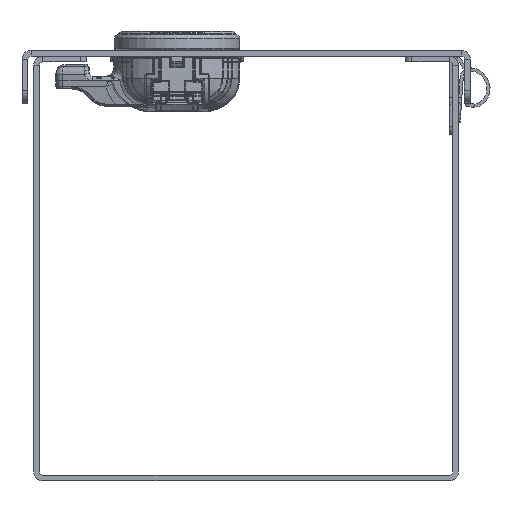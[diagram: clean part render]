
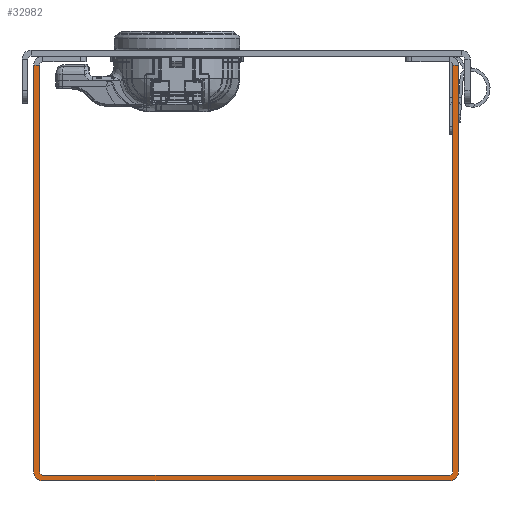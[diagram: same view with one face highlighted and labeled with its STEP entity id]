
A CAD part, front view. The second image highlights one B-rep face of the part: STEP entity #32982.
In plain terms, the highlighted planar face has unit normal (0, -1, 0).
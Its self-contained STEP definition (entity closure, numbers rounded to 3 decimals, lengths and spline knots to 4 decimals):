
#2635=FACE_OUTER_BOUND('',#4661,.T.);
#4661=EDGE_LOOP('',(#23422,#23423,#23424,#23425,#23426,#23427,#23428,#23429,
#23430,#23431,#23432,#23433));
#6642=LINE('',#47168,#9529);
#7129=LINE('',#48593,#10016);
#7136=LINE('',#48615,#10023);
#7143=LINE('',#48639,#10030);
#7145=LINE('',#48645,#10032);
#7146=LINE('',#48648,#10033);
#7147=LINE('',#48650,#10034);
#7148=LINE('',#48654,#10035);
#9529=VECTOR('',#38213,0.3937);
#10016=VECTOR('',#39638,0.3937);
#10023=VECTOR('',#39665,0.3937);
#10030=VECTOR('',#39690,0.3937);
#10032=VECTOR('',#39696,0.3937);
#10033=VECTOR('',#39699,0.3937);
#10034=VECTOR('',#39700,0.3937);
#10035=VECTOR('',#39703,0.3937);
#12507=CIRCLE('',#35422,0.031);
#12508=CIRCLE('',#35423,0.031);
#12509=CIRCLE('',#35424,0.086);
#12510=CIRCLE('',#35425,0.086);
#13693=VERTEX_POINT('',#47165);
#13694=VERTEX_POINT('',#47167);
#14163=VERTEX_POINT('',#48588);
#14166=VERTEX_POINT('',#48603);
#14168=VERTEX_POINT('',#48614);
#14176=VERTEX_POINT('',#48638);
#14177=VERTEX_POINT('',#48642);
#14178=VERTEX_POINT('',#48644);
#14179=VERTEX_POINT('',#48646);
#14180=VERTEX_POINT('',#48649);
#14181=VERTEX_POINT('',#48651);
#14182=VERTEX_POINT('',#48653);
#16902=EDGE_CURVE('',#13694,#13693,#6642,.T.);
#17618=EDGE_CURVE('',#14163,#13694,#7129,.T.);
#17628=EDGE_CURVE('',#14168,#14166,#7136,.T.);
#17640=EDGE_CURVE('',#14163,#14176,#7143,.T.);
#17642=EDGE_CURVE('',#14177,#13693,#12507,.T.);
#17643=EDGE_CURVE('',#14177,#14178,#7145,.T.);
#17644=EDGE_CURVE('',#14178,#14179,#12508,.T.);
#17645=EDGE_CURVE('',#14179,#14168,#7146,.T.);
#17646=EDGE_CURVE('',#14180,#14166,#7147,.T.);
#17647=EDGE_CURVE('',#14181,#14180,#12509,.T.);
#17648=EDGE_CURVE('',#14182,#14181,#7148,.T.);
#17649=EDGE_CURVE('',#14182,#14176,#12510,.T.);
#23422=ORIENTED_EDGE('',*,*,#17618,.T.);
#23423=ORIENTED_EDGE('',*,*,#16902,.T.);
#23424=ORIENTED_EDGE('',*,*,#17642,.F.);
#23425=ORIENTED_EDGE('',*,*,#17643,.T.);
#23426=ORIENTED_EDGE('',*,*,#17644,.T.);
#23427=ORIENTED_EDGE('',*,*,#17645,.T.);
#23428=ORIENTED_EDGE('',*,*,#17628,.T.);
#23429=ORIENTED_EDGE('',*,*,#17646,.F.);
#23430=ORIENTED_EDGE('',*,*,#17647,.F.);
#23431=ORIENTED_EDGE('',*,*,#17648,.F.);
#23432=ORIENTED_EDGE('',*,*,#17649,.T.);
#23433=ORIENTED_EDGE('',*,*,#17640,.F.);
#32047=PLANE('',#35421);
#32982=ADVANCED_FACE('',(#2635),#32047,.T.);
#35421=AXIS2_PLACEMENT_3D('',#48641,#39692,#39693);
#35422=AXIS2_PLACEMENT_3D('',#48643,#39694,#39695);
#35423=AXIS2_PLACEMENT_3D('',#48647,#39697,#39698);
#35424=AXIS2_PLACEMENT_3D('',#48652,#39701,#39702);
#35425=AXIS2_PLACEMENT_3D('',#48655,#39704,#39705);
#38213=DIRECTION('',(0.,0.,-1.));
#39638=DIRECTION('',(-1.,0.,0.));
#39665=DIRECTION('',(-1.,0.,0.));
#39690=DIRECTION('',(0.,0.,-1.));
#39692=DIRECTION('center_axis',(0.,-1.,0.));
#39693=DIRECTION('ref_axis',(0.,0.,-1.));
#39694=DIRECTION('center_axis',(0.,-1.,0.));
#39695=DIRECTION('ref_axis',(0.,0.,-1.));
#39696=DIRECTION('',(-1.,0.,0.));
#39697=DIRECTION('center_axis',(0.,1.,0.));
#39698=DIRECTION('ref_axis',(0.,0.,-1.));
#39699=DIRECTION('',(0.,0.,1.));
#39700=DIRECTION('',(0.,0.,1.));
#39701=DIRECTION('center_axis',(0.,1.,0.));
#39702=DIRECTION('ref_axis',(0.,0.,-1.));
#39703=DIRECTION('',(-1.,0.,0.));
#39704=DIRECTION('center_axis',(0.,-1.,0.));
#39705=DIRECTION('ref_axis',(0.,0.,-1.));
#47165=CARTESIAN_POINT('',(1.945,-36.,0.086));
#47167=CARTESIAN_POINT('',(1.945,-36.,3.914));
#47168=CARTESIAN_POINT('',(1.945,-36.,4.));
#48588=CARTESIAN_POINT('',(2.,-36.,3.914));
#48593=CARTESIAN_POINT('',(-0.0275,-36.,3.914));
#48603=CARTESIAN_POINT('',(-2.,-36.,3.914));
#48614=CARTESIAN_POINT('',(-1.945,-36.,3.914));
#48615=CARTESIAN_POINT('',(-1.9725,-36.,3.914));
#48638=CARTESIAN_POINT('',(2.,-36.,0.086));
#48639=CARTESIAN_POINT('',(2.,-36.,4.));
#48641=CARTESIAN_POINT('Origin',(-2.,-36.,0.));
#48642=CARTESIAN_POINT('',(1.914,-36.,0.055));
#48643=CARTESIAN_POINT('Origin',(1.914,-36.,0.086));
#48644=CARTESIAN_POINT('',(-1.914,-36.,0.055));
#48645=CARTESIAN_POINT('',(2.,-36.,0.055));
#48646=CARTESIAN_POINT('',(-1.945,-36.,0.086));
#48647=CARTESIAN_POINT('Origin',(-1.914,-36.,0.086));
#48648=CARTESIAN_POINT('',(-1.945,-36.,0.));
#48649=CARTESIAN_POINT('',(-2.,-36.,0.086));
#48650=CARTESIAN_POINT('',(-2.,-36.,0.));
#48651=CARTESIAN_POINT('',(-1.914,-36.,0.));
#48652=CARTESIAN_POINT('Origin',(-1.914,-36.,0.086));
#48653=CARTESIAN_POINT('',(1.914,-36.,0.));
#48654=CARTESIAN_POINT('',(2.,-36.,0.));
#48655=CARTESIAN_POINT('Origin',(1.914,-36.,0.086));
